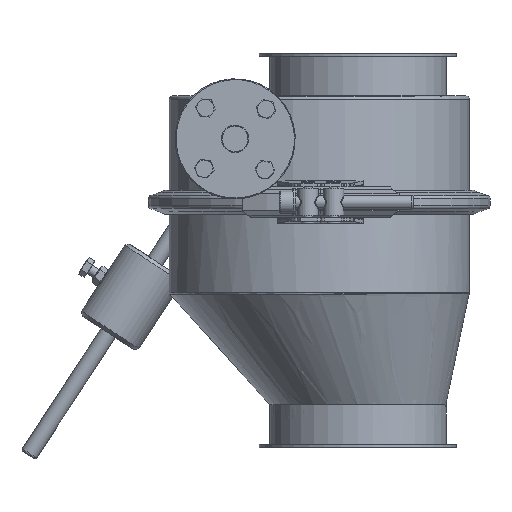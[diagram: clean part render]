
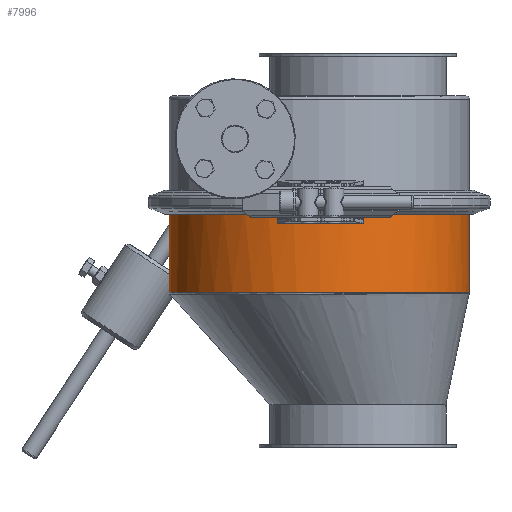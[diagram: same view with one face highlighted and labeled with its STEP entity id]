
A CAD part, left-side view. The second image highlights one B-rep face of the part: STEP entity #7996.
In plain terms, the highlighted cylindrical face has radius 87.5 mm (diameter 175 mm), a full revolution.
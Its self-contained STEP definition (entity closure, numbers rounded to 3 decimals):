
#7723=CARTESIAN_POINT('',(-87.499,22.169,-89.484));
#7724=VERTEX_POINT('',#7723);
#7801=CARTESIAN_POINT('',(-87.499,22.165,-89.484));
#7802=CARTESIAN_POINT('',(-87.525,28.674,-89.463));
#7803=CARTESIAN_POINT('',(-86.46,38.543,-89.432));
#7804=CARTESIAN_POINT('',(-82.855,51.188,-89.394));
#7805=CARTESIAN_POINT('',(-78.537,61.729,-89.363));
#7806=CARTESIAN_POINT('',(-73.542,70.284,-89.338));
#7807=CARTESIAN_POINT('',(-65.676,80.798,-89.309));
#7808=CARTESIAN_POINT('',(-55.314,91.252,-89.281));
#7809=CARTESIAN_POINT('',(-41.988,99.694,-89.259));
#7810=CARTESIAN_POINT('',(-33.034,103.577,-89.249));
#7811=CARTESIAN_POINT('',(-26.908,105.845,-89.243));
#7812=CARTESIAN_POINT('',(-16.635,108.844,-89.235));
#7813=CARTESIAN_POINT('',(-4.358,110.262,-89.232));
#7814=CARTESIAN_POINT('',(5.412,109.881,-89.233));
#7815=CARTESIAN_POINT('',(11.945,109.263,-89.234));
#7816=CARTESIAN_POINT('',(24.678,107.136,-89.24));
#7817=CARTESIAN_POINT('',(37.439,102.174,-89.252));
#7818=CARTESIAN_POINT('',(48.663,95.322,-89.27));
#7819=CARTESIAN_POINT('',(55.781,90.197,-89.284));
#7820=CARTESIAN_POINT('',(64.171,82.46,-89.304));
#7821=CARTESIAN_POINT('',(70.358,74.762,-89.326));
#7822=CARTESIAN_POINT('',(75.179,67.443,-89.346));
#7823=CARTESIAN_POINT('',(79.423,59.809,-89.368));
#7824=CARTESIAN_POINT('',(83.835,48.676,-89.401));
#7825=CARTESIAN_POINT('',(86.446,37.413,-89.435));
#7826=CARTESIAN_POINT('',(87.36,28.726,-89.463));
#7827=CARTESIAN_POINT('',(87.629,20.053,-89.491));
#7828=CARTESIAN_POINT('',(86.889,9.661,-89.525));
#7829=CARTESIAN_POINT('',(83.981,-3.199,-89.568));
#7830=CARTESIAN_POINT('',(80.434,-12.307,-89.6));
#7831=CARTESIAN_POINT('',(76.518,-20.125,-89.628));
#7832=CARTESIAN_POINT('',(72.004,-27.66,-89.655));
#7833=CARTESIAN_POINT('',(65.884,-35.368,-89.683));
#7834=CARTESIAN_POINT('',(58.225,-43.068,-89.712));
#7835=CARTESIAN_POINT('',(51.366,-48.576,-89.732));
#7836=CARTESIAN_POINT('',(42.103,-54.42,-89.754));
#7837=CARTESIAN_POINT('',(32.324,-59.16,-89.772));
#7838=CARTESIAN_POINT('',(22.896,-62.101,-89.783));
#7839=CARTESIAN_POINT('',(14.32,-63.91,-89.79));
#7840=CARTESIAN_POINT('',(5.662,-65.067,-89.795));
#7841=CARTESIAN_POINT('',(-6.312,-65.099,-89.795));
#7842=CARTESIAN_POINT('',(-16.658,-63.571,-89.789));
#7843=CARTESIAN_POINT('',(-25.128,-61.401,-89.781));
#7844=CARTESIAN_POINT('',(-31.3,-59.32,-89.773));
#7845=CARTESIAN_POINT('',(-41.806,-54.771,-89.755));
#7846=CARTESIAN_POINT('',(-50.007,-49.644,-89.736));
#7847=CARTESIAN_POINT('',(-57.593,-43.439,-89.713));
#7848=CARTESIAN_POINT('',(-62.393,-39.047,-89.697));
#7849=CARTESIAN_POINT('',(-70.635,-29.875,-89.663));
#7850=CARTESIAN_POINT('',(-76.8,-20.092,-89.628));
#7851=CARTESIAN_POINT('',(-82.141,-8.214,-89.586));
#7852=CARTESIAN_POINT('',(-86.156,4.25,-89.543));
#7853=CARTESIAN_POINT('',(-87.474,15.656,-89.505));
#7854=CARTESIAN_POINT('',(-87.499,22.165,-89.484));
#7855=B_SPLINE_CURVE_WITH_KNOTS('',3,(#7801,#7802,#7803,#7804,#7805,#7806,#7807,#7808,#7809,#7810,#7811,#7812,#7813,#7814,#7815,#7816,#7817,#7818,#7819,#7820,#7821,#7822,#7823,#7824,#7825,#7826,#7827,#7828,#7829,#7830,#7831,#7832,#7833,#7834,#7835,#7836,#7837,#7838,#7839,#7840,#7841,#7842,#7843,#7844,#7845,#7846,#7847,#7848,#7849,#7850,#7851,#7852,#7853,#7854),.UNSPECIFIED.,.T.,.U.,(4,1,1,1,1,1,1,1,1,1,1,1,1,1,1,1,1,1,1,1,1,1,1,1,1,1,1,1,1,1,1,1,1,1,1,1,1,1,1,1,1,1,1,1,1,1,1,1,1,1,1,4),(-3.142,-2.917,-2.805,-2.693,-2.524,-2.468,-2.244,-2.02,-1.935,-1.907,-1.795,-1.571,-1.487,-1.459,-1.346,-1.047,-0.991,-0.898,-0.748,-0.598,-0.561,-0.449,-0.299,-0.15,-0.056,0.,0.15,0.299,0.449,0.486,0.598,0.748,0.823,0.972,1.047,1.197,1.346,1.384,1.496,1.646,1.795,1.851,1.945,2.02,2.244,2.272,2.356,2.468,2.693,2.749,2.917,3.142),.UNSPECIFIED.);
#7856=EDGE_CURVE('',#7724,#7724,#7855,.T.);
#7977=CARTESIAN_POINT('',(0.0,22.5,-35.0));
#7978=DIRECTION('',(0.0,0.0,-1.0));
#7979=DIRECTION('',(1.0,0.0,0.0));
#7980=AXIS2_PLACEMENT_3D('',#7977,#7978,#7979);
#7981=CYLINDRICAL_SURFACE('',#7980,87.5);
#7982=CARTESIAN_POINT('',(-87.5,22.5,-37.0));
#7983=VERTEX_POINT('',#7982);
#7984=CARTESIAN_POINT('',(0.0,22.5,-37.0));
#7985=DIRECTION('',(0.0,0.0,1.0));
#7986=DIRECTION('',(1.0,0.0,0.0));
#7987=AXIS2_PLACEMENT_3D('',#7984,#7985,#7986);
#7988=CIRCLE('',#7987,87.5);
#7989=EDGE_CURVE('',#7983,#7983,#7988,.T.);
#7990=ORIENTED_EDGE('',*,*,#7989,.F.);
#7991=EDGE_LOOP('',(#7990));
#7992=FACE_OUTER_BOUND('',#7991,.T.);
#7993=ORIENTED_EDGE('',*,*,#7856,.F.);
#7994=EDGE_LOOP('',(#7993));
#7995=FACE_BOUND('',#7994,.T.);
#7996=ADVANCED_FACE('',(#7992,#7995),#7981,.T.);
